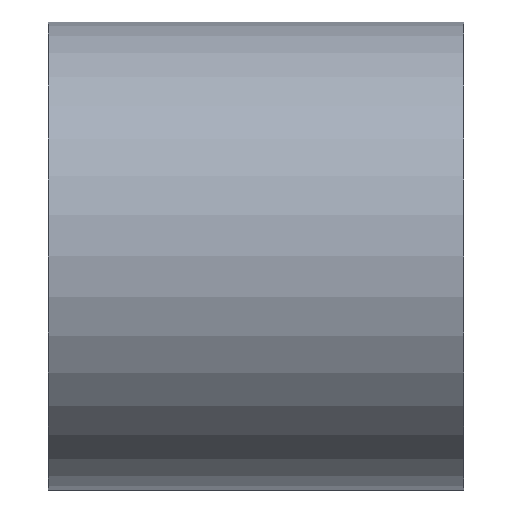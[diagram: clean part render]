
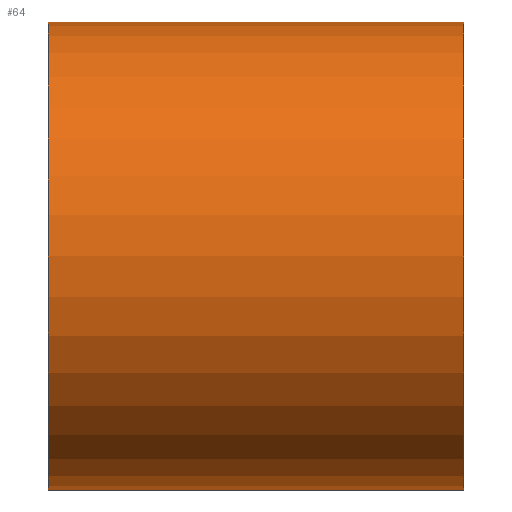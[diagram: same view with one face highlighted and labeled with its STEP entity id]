
A CAD part, front view. The second image highlights one B-rep face of the part: STEP entity #64.
In plain terms, the highlighted cylindrical face has radius 44.45 mm (diameter 88.9 mm), a full revolution.
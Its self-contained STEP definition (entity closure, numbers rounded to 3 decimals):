
#21=FACE_OUTER_BOUND('',#27,.T.);
#27=EDGE_LOOP('',(#54,#55,#56,#57));
#31=LINE('',#134,#33);
#33=VECTOR('',#116,44.45);
#36=CIRCLE('',#94,44.45);
#37=CIRCLE('',#96,44.45);
#40=VERTEX_POINT('',#129);
#41=VERTEX_POINT('',#132);
#45=EDGE_CURVE('',#40,#40,#36,.T.);
#46=EDGE_CURVE('',#41,#41,#37,.T.);
#47=EDGE_CURVE('',#41,#40,#31,.T.);
#54=ORIENTED_EDGE('',*,*,#46,.F.);
#55=ORIENTED_EDGE('',*,*,#47,.T.);
#56=ORIENTED_EDGE('',*,*,#45,.T.);
#57=ORIENTED_EDGE('',*,*,#47,.F.);
#61=CYLINDRICAL_SURFACE('',#95,44.45);
#64=ADVANCED_FACE('',(#21),#61,.T.);
#94=AXIS2_PLACEMENT_3D('',#130,#110,#111);
#95=AXIS2_PLACEMENT_3D('',#131,#112,#113);
#96=AXIS2_PLACEMENT_3D('',#133,#114,#115);
#110=DIRECTION('center_axis',(-1.,0.,0.));
#111=DIRECTION('ref_axis',(0.,0.,1.));
#112=DIRECTION('center_axis',(-1.,0.,0.));
#113=DIRECTION('ref_axis',(0.,1.,0.));
#114=DIRECTION('center_axis',(-1.,0.,0.));
#115=DIRECTION('ref_axis',(0.,0.,1.));
#116=DIRECTION('',(1.,0.,0.));
#129=CARTESIAN_POINT('',(79.,-44.45,0.));
#130=CARTESIAN_POINT('Origin',(79.,0.,0.));
#131=CARTESIAN_POINT('Origin',(39.5,0.,0.));
#132=CARTESIAN_POINT('',(0.,-44.45,0.));
#133=CARTESIAN_POINT('Origin',(0.,0.,
0.));
#134=CARTESIAN_POINT('',(39.5,-44.45,0.));
